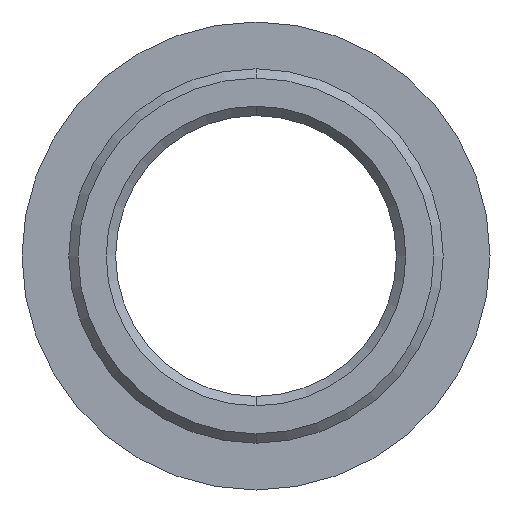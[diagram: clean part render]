
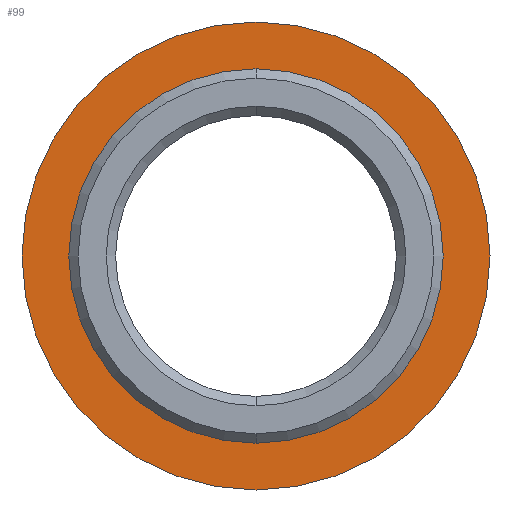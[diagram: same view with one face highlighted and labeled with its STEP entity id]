
A CAD part, left-side view. The second image highlights one B-rep face of the part: STEP entity #99.
In plain terms, the highlighted free-form (B-spline) face has degree [1, 1] with [2, 2] control points.
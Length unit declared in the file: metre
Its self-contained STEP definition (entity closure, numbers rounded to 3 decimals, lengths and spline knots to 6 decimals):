
#99 = ADVANCED_FACE( '', ( #154, #155 ), #156, .F. );
#154 = FACE_BOUND( '', #244, .T. );
#155 = FACE_OUTER_BOUND( '', #245, .T. );
#156 = B_SPLINE_SURFACE_WITH_KNOTS( '', 1, 1, ( ( #246, #247 ), ( #248, #249 ) ), .UNSPECIFIED., .F., .F., .F., ( 2, 2 ), ( 2, 2 ), ( 0., 1. ), ( 0., 1. ), .UNSPECIFIED. );
#244 = EDGE_LOOP( '', ( #415, #416 ) );
#245 = EDGE_LOOP( '', ( #417, #418 ) );
#246 = CARTESIAN_POINT( '', ( 0.009, -0.01265, 0.01265 ) );
#247 = CARTESIAN_POINT( '', ( 0.009, 0.01265, 0.01265 ) );
#248 = CARTESIAN_POINT( '', ( 0.009, -0.01265, -0.01265 ) );
#249 = CARTESIAN_POINT( '', ( 0.009, 0.01265, -0.01265 ) );
#415 = ORIENTED_EDGE( '', *, *, #486, .T. );
#416 = ORIENTED_EDGE( '', *, *, #490, .T. );
#417 = ORIENTED_EDGE( '', *, *, #491, .F. );
#418 = ORIENTED_EDGE( '', *, *, #492, .F. );
#486 = EDGE_CURVE( '', #566, #567, #568, .F. );
#490 = EDGE_CURVE( '', #567, #566, #572, .F. );
#491 = EDGE_CURVE( '', #573, #574, #575, .F. );
#492 = EDGE_CURVE( '', #574, #573, #576, .F. );
#566 = VERTEX_POINT( '', #666 );
#567 = VERTEX_POINT( '', #667 );
#568 = CIRCLE( '', #668, 0.0095 );
#572 = CIRCLE( '', #674, 0.0095 );
#573 = VERTEX_POINT( '', #675 );
#574 = VERTEX_POINT( '', #676 );
#575 = CIRCLE( '', #677, 0.0125 );
#576 = CIRCLE( '', #678, 0.0125 );
#666 = CARTESIAN_POINT( '', ( 0.009, 0., 0.0095 ) );
#667 = CARTESIAN_POINT( '', ( 0.009, 0., -0.0095 ) );
#668 = AXIS2_PLACEMENT_3D( '', #780, #781, #782 );
#674 = AXIS2_PLACEMENT_3D( '', #788, #789, #790 );
#675 = CARTESIAN_POINT( '', ( 0.009, 0., 0.0125 ) );
#676 = CARTESIAN_POINT( '', ( 0.009, 0., -0.0125 ) );
#677 = AXIS2_PLACEMENT_3D( '', #791, #792, #793 );
#678 = AXIS2_PLACEMENT_3D( '', #794, #795, #796 );
#780 = CARTESIAN_POINT( '', ( 0.009, 0., 0. ) );
#781 = DIRECTION( '', ( -1., 0., 0. ) );
#782 = DIRECTION( '', ( 0., 0., 1. ) );
#788 = CARTESIAN_POINT( '', ( 0.009, 0., 0. ) );
#789 = DIRECTION( '', ( -1., 0., 0. ) );
#790 = DIRECTION( '', ( 0., 0., 1. ) );
#791 = CARTESIAN_POINT( '', ( 0.009, 0., 0. ) );
#792 = DIRECTION( '', ( -1., 0., 0. ) );
#793 = DIRECTION( '', ( 0., 0., 1. ) );
#794 = CARTESIAN_POINT( '', ( 0.009, 0., 0. ) );
#795 = DIRECTION( '', ( -1., 0., 0. ) );
#796 = DIRECTION( '', ( 0., 0., 1. ) );
